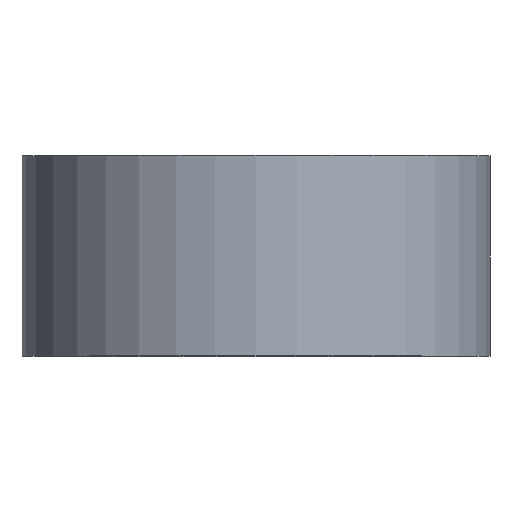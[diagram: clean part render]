
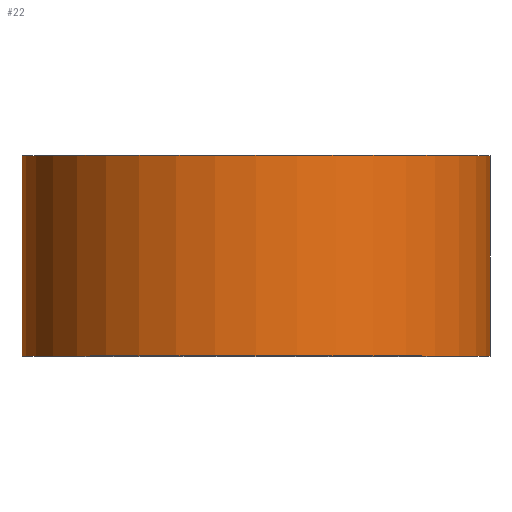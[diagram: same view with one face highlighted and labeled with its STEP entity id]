
A CAD part, top view. The second image highlights one B-rep face of the part: STEP entity #22.
In plain terms, the highlighted cylindrical face has radius 35 mm (diameter 70 mm), a partial arc.
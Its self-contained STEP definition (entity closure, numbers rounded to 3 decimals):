
#12 = VERTEX_POINT ( 'NONE', #94 ) ;
#22 = ADVANCED_FACE ( 'NONE', ( #80 ), #283, .T. ) ;
#38 = DIRECTION ( 'NONE',  ( 0., 1., 0. ) ) ;
#40 = DIRECTION ( 'NONE',  ( 0., 1., 0. ) ) ;
#45 = DIRECTION ( 'NONE',  ( -1., 0., 0. ) ) ;
#46 = CIRCLE ( 'NONE', #69, 35. ) ;
#58 = ORIENTED_EDGE ( 'NONE', *, *, #145, .T. ) ;
#64 = VERTEX_POINT ( 'NONE', #279 ) ;
#68 = CARTESIAN_POINT ( 'NONE',  ( 35., 0., 0. ) ) ;
#69 = AXIS2_PLACEMENT_3D ( 'NONE', #274, #209, #228 ) ;
#70 = VECTOR ( 'NONE', #229, 1000. ) ;
#80 = FACE_OUTER_BOUND ( 'NONE', #89, .T. ) ;
#89 = EDGE_LOOP ( 'NONE', ( #58, #101, #127, #227 ) ) ;
#94 = CARTESIAN_POINT ( 'NONE',  ( -35., 30., 0. ) ) ;
#101 = ORIENTED_EDGE ( 'NONE', *, *, #297, .T. ) ;
#116 = DIRECTION ( 'NONE',  ( 0., 1., 0. ) ) ;
#127 = ORIENTED_EDGE ( 'NONE', *, *, #240, .F. ) ;
#135 = LINE ( 'NONE', #223, #150 ) ;
#142 = EDGE_CURVE ( 'NONE', #159, #12, #135, .T. ) ;
#145 = EDGE_CURVE ( 'NONE', #159, #64, #247, .T. ) ;
#150 = VECTOR ( 'NONE', #38, 1000. ) ;
#159 = VERTEX_POINT ( 'NONE', #206 ) ;
#193 = DIRECTION ( 'NONE',  ( -1., 0., 0. ) ) ;
#206 = CARTESIAN_POINT ( 'NONE',  ( -35., 0., 0. ) ) ;
#209 = DIRECTION ( 'NONE',  ( 0., 1., 0. ) ) ;
#211 = CARTESIAN_POINT ( 'NONE',  ( 0., 0., 0. ) ) ;
#223 = CARTESIAN_POINT ( 'NONE',  ( -35., 0., 0. ) ) ;
#227 = ORIENTED_EDGE ( 'NONE', *, *, #142, .F. ) ;
#228 = DIRECTION ( 'NONE',  ( -1., 0., 0. ) ) ;
#229 = DIRECTION ( 'NONE',  ( 0., 1., 0. ) ) ;
#240 = EDGE_CURVE ( 'NONE', #12, #275, #46, .T. ) ;
#243 = AXIS2_PLACEMENT_3D ( 'NONE', #211, #116, #193 ) ;
#247 = CIRCLE ( 'NONE', #268, 35. ) ;
#265 = LINE ( 'NONE', #68, #70 ) ;
#268 = AXIS2_PLACEMENT_3D ( 'NONE', #296, #40, #45 ) ;
#271 = CARTESIAN_POINT ( 'NONE',  ( 35., 30., 0. ) ) ;
#274 = CARTESIAN_POINT ( 'NONE',  ( 0., 30., 0. ) ) ;
#275 = VERTEX_POINT ( 'NONE', #271 ) ;
#279 = CARTESIAN_POINT ( 'NONE',  ( 35., 0., 0. ) ) ;
#283 = CYLINDRICAL_SURFACE ( 'NONE', #243, 35. ) ;
#296 = CARTESIAN_POINT ( 'NONE',  ( 0., 0., 0. ) ) ;
#297 = EDGE_CURVE ( 'NONE', #64, #275, #265, .T. ) ;
